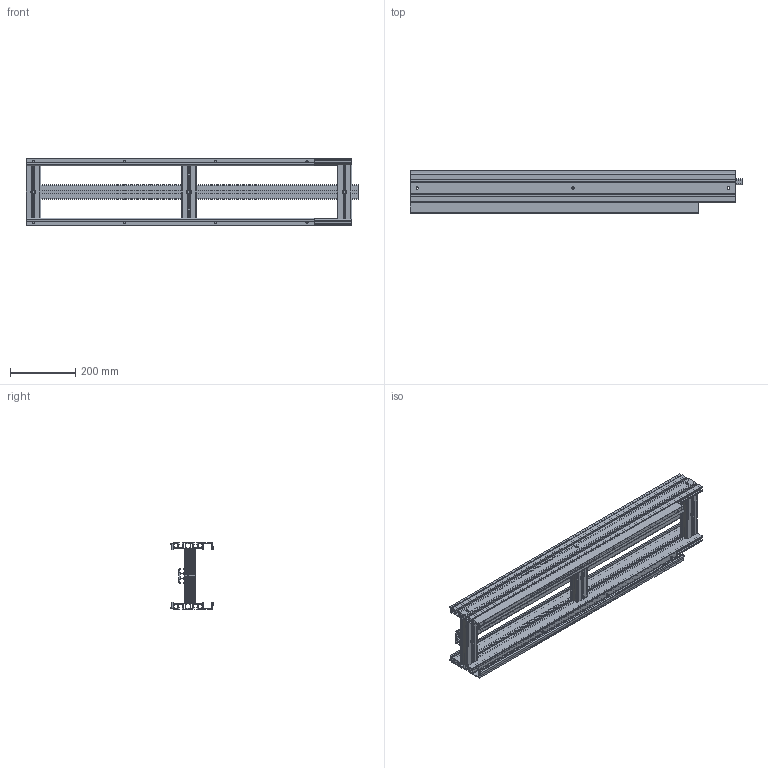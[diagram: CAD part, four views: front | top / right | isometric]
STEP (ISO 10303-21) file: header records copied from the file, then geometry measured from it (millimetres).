
FILE_DESCRIPTION (( 'STEP AP203' ), '1' );
FILE_NAME ('2000.750.002.STEP', '2015-04-15T14:25:38', ( '' ), ( '' ), 'SwSTEP 2.0', 'SolidWorks 2012', '' );
FILE_SCHEMA (( 'CONFIG_CONTROL_DESIGN' ));
Length unit declared in the file: millimetre
Products named in the file (1): 2000.750.002
Bounding box: 1019 x 134.24 x 205 mm (x, y, z)
Volume: 2490381.1 mm3; surface area: 1868613.3 mm2
Topology: 12 solids, 12 shells, 669 faces, 1936 edges, 1274 vertices
Faces by surface type: plane 409, cylinder 244, cone 16
Entity records: 23149 total; most frequent: CARTESIAN_POINT 4976, ORIENTED_EDGE 3872, DIRECTION 3692, EDGE_CURVE 1936, VECTOR 1376, LINE 1376, VERTEX_POINT 1274, AXIS2_PLACEMENT_3D 1158
